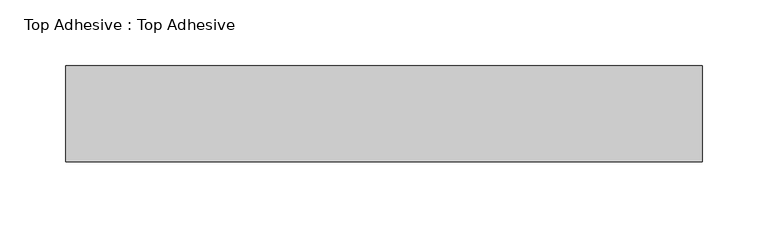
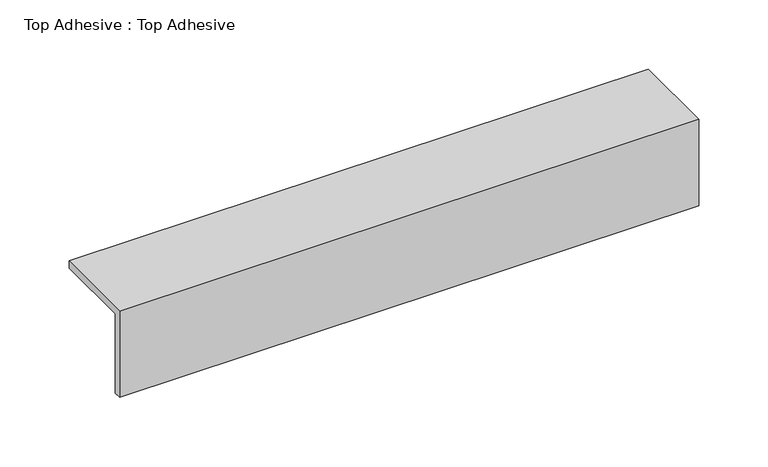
"""IFC4 building model written with IfcOpenShell, lengths in millimetres: proxy geometry, Top Adhesive : Top Adhesive."""

from ifc_helpers import new_model, si_unit, frame, origin, place, context, project, spatial, polyline, outline, extrude, source, transform, mapped, element, save


def top_adhesive_top_adhesive_4fbfd34a(model_context):
    return source(origin(), model_context, "Body", "SweptSolid", [
        extrude(outline(polyline([(637.1566297, -85.725), (630.8066297, -85.725), (630.8066297, -9.525), (703.8316297, -9.525), (703.8316297, -15.875), (637.1566297, -15.875), (637.1566297, -85.725)])), frame((26615.3789273, 0.0, 0.0), z_axis=(1.0, 0.0, 0.0), x_axis=(0.0, 1.0, 0.0)), (0.0, 0.0, 1.0), 483.39375),
    ])


if __name__ == "__main__":
    model = new_model("IFC4")
    model_context = context("Model", 3, world=origin())
    ifc_project = project(units=[si_unit("LENGTHUNIT", "METRE", prefix="MILLI")], contexts=[model_context])
    site = spatial("IfcSite", under=ifc_project)
    building = spatial("IfcBuilding", under=site)
    placement = place(None, origin())
    top_adhesive_top_adhesive_shape = top_adhesive_top_adhesive_4fbfd34a(model_context)
    element("IfcBuildingElementProxy", 1, Name="Top Adhesive : Top Adhesive", ObjectType="Top Adhesive : Top Adhesive", at=placement, inside=building, context=model_context, shape_type="MappedRepresentation", body=[
        mapped(top_adhesive_top_adhesive_shape, transform((0.0, 0.0, 0.0), x_axis=(1.0, 0.0, 0.0), y_axis=(0.0, 1.0, 0.0), z_axis=(0.0, 0.0, 1.0))),
    ])
    save(model, "model.ifc")
